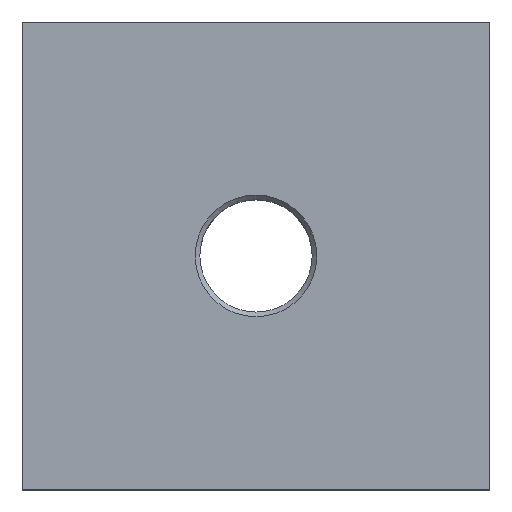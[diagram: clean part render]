
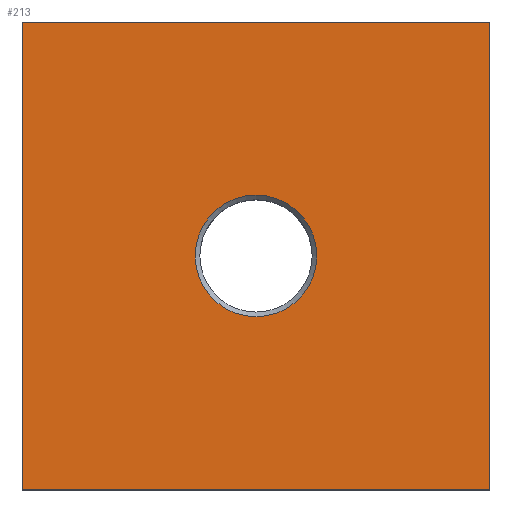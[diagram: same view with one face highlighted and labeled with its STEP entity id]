
A CAD part, top view. The second image highlights one B-rep face of the part: STEP entity #213.
In plain terms, the highlighted planar face has unit normal (0, 0, 1).
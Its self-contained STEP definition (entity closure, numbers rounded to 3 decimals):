
#24 = VERTEX_POINT('',#25);
#25 = CARTESIAN_POINT('',(-50.,-50.,30.));
#32 = PLANE('',#33);
#33 = AXIS2_PLACEMENT_3D('',#34,#35,#36);
#34 = CARTESIAN_POINT('',(-50.,-50.,0.));
#35 = DIRECTION('',(1.,0.,0.));
#36 = DIRECTION('',(0.,0.,1.));
#44 = PLANE('',#45);
#45 = AXIS2_PLACEMENT_3D('',#46,#47,#48);
#46 = CARTESIAN_POINT('',(-50.,-50.,0.));
#47 = DIRECTION('',(0.,1.,0.));
#48 = DIRECTION('',(0.,0.,1.));
#85 = VERTEX_POINT('',#86);
#86 = CARTESIAN_POINT('',(-50.,50.,30.));
#100 = PLANE('',#101);
#101 = AXIS2_PLACEMENT_3D('',#102,#103,#104);
#102 = CARTESIAN_POINT('',(-50.,50.,0.));
#103 = DIRECTION('',(0.,1.,0.));
#104 = DIRECTION('',(0.,0.,1.));
#112 = EDGE_CURVE('',#24,#85,#113,.T.);
#113 = SURFACE_CURVE('',#114,(#118,#125),.PCURVE_S1.);
#114 = LINE('',#115,#116);
#115 = CARTESIAN_POINT('',(-50.,-50.,30.));
#116 = VECTOR('',#117,1.);
#117 = DIRECTION('',(0.,1.,0.));
#118 = PCURVE('',#32,#119);
#119 = DEFINITIONAL_REPRESENTATION('',(#120),#124);
#120 = LINE('',#121,#122);
#121 = CARTESIAN_POINT('',(30.,0.));
#122 = VECTOR('',#123,1.);
#123 = DIRECTION('',(0.,-1.));
#124 = ( GEOMETRIC_REPRESENTATION_CONTEXT(2) 
PARAMETRIC_REPRESENTATION_CONTEXT() REPRESENTATION_CONTEXT('2D SPACE',''
  ) );
#125 = PCURVE('',#126,#131);
#126 = PLANE('',#127);
#127 = AXIS2_PLACEMENT_3D('',#128,#129,#130);
#128 = CARTESIAN_POINT('',(-50.,-50.,30.));
#129 = DIRECTION('',(0.,0.,1.));
#130 = DIRECTION('',(1.,0.,0.));
#131 = DEFINITIONAL_REPRESENTATION('',(#132),#136);
#132 = LINE('',#133,#134);
#133 = CARTESIAN_POINT('',(0.,0.));
#134 = VECTOR('',#135,1.);
#135 = DIRECTION('',(0.,1.));
#136 = ( GEOMETRIC_REPRESENTATION_CONTEXT(2) 
PARAMETRIC_REPRESENTATION_CONTEXT() REPRESENTATION_CONTEXT('2D SPACE',''
  ) );
#165 = EDGE_CURVE('',#24,#166,#168,.T.);
#166 = VERTEX_POINT('',#167);
#167 = CARTESIAN_POINT('',(50.,-50.,30.));
#168 = SURFACE_CURVE('',#169,(#173,#180),.PCURVE_S1.);
#169 = LINE('',#170,#171);
#170 = CARTESIAN_POINT('',(-50.,-50.,30.));
#171 = VECTOR('',#172,1.);
#172 = DIRECTION('',(1.,0.,0.));
#173 = PCURVE('',#44,#174);
#174 = DEFINITIONAL_REPRESENTATION('',(#175),#179);
#175 = LINE('',#176,#177);
#176 = CARTESIAN_POINT('',(30.,0.));
#177 = VECTOR('',#178,1.);
#178 = DIRECTION('',(0.,1.));
#179 = ( GEOMETRIC_REPRESENTATION_CONTEXT(2) 
PARAMETRIC_REPRESENTATION_CONTEXT() REPRESENTATION_CONTEXT('2D SPACE',''
  ) );
#180 = PCURVE('',#126,#181);
#181 = DEFINITIONAL_REPRESENTATION('',(#182),#186);
#182 = LINE('',#183,#184);
#183 = CARTESIAN_POINT('',(0.,0.));
#184 = VECTOR('',#185,1.);
#185 = DIRECTION('',(1.,0.));
#186 = ( GEOMETRIC_REPRESENTATION_CONTEXT(2) 
PARAMETRIC_REPRESENTATION_CONTEXT() REPRESENTATION_CONTEXT('2D SPACE',''
  ) );
#202 = PLANE('',#203);
#203 = AXIS2_PLACEMENT_3D('',#204,#205,#206);
#204 = CARTESIAN_POINT('',(50.,-50.,0.));
#205 = DIRECTION('',(1.,0.,0.));
#206 = DIRECTION('',(0.,0.,1.));
#213 = ADVANCED_FACE('',(#214,#262),#126,.T.);
#214 = FACE_BOUND('',#215,.T.);
#215 = EDGE_LOOP('',(#216,#217,#218,#241));
#216 = ORIENTED_EDGE('',*,*,#112,.F.);
#217 = ORIENTED_EDGE('',*,*,#165,.T.);
#218 = ORIENTED_EDGE('',*,*,#219,.T.);
#219 = EDGE_CURVE('',#166,#220,#222,.T.);
#220 = VERTEX_POINT('',#221);
#221 = CARTESIAN_POINT('',(50.,50.,30.));
#222 = SURFACE_CURVE('',#223,(#227,#234),.PCURVE_S1.);
#223 = LINE('',#224,#225);
#224 = CARTESIAN_POINT('',(50.,-50.,30.));
#225 = VECTOR('',#226,1.);
#226 = DIRECTION('',(0.,1.,0.));
#227 = PCURVE('',#126,#228);
#228 = DEFINITIONAL_REPRESENTATION('',(#229),#233);
#229 = LINE('',#230,#231);
#230 = CARTESIAN_POINT('',(100.,0.));
#231 = VECTOR('',#232,1.);
#232 = DIRECTION('',(0.,1.));
#233 = ( GEOMETRIC_REPRESENTATION_CONTEXT(2) 
PARAMETRIC_REPRESENTATION_CONTEXT() REPRESENTATION_CONTEXT('2D SPACE',''
  ) );
#234 = PCURVE('',#202,#235);
#235 = DEFINITIONAL_REPRESENTATION('',(#236),#240);
#236 = LINE('',#237,#238);
#237 = CARTESIAN_POINT('',(30.,0.));
#238 = VECTOR('',#239,1.);
#239 = DIRECTION('',(0.,-1.));
#240 = ( GEOMETRIC_REPRESENTATION_CONTEXT(2) 
PARAMETRIC_REPRESENTATION_CONTEXT() REPRESENTATION_CONTEXT('2D SPACE',''
  ) );
#241 = ORIENTED_EDGE('',*,*,#242,.F.);
#242 = EDGE_CURVE('',#85,#220,#243,.T.);
#243 = SURFACE_CURVE('',#244,(#248,#255),.PCURVE_S1.);
#244 = LINE('',#245,#246);
#245 = CARTESIAN_POINT('',(-50.,50.,30.));
#246 = VECTOR('',#247,1.);
#247 = DIRECTION('',(1.,0.,0.));
#248 = PCURVE('',#126,#249);
#249 = DEFINITIONAL_REPRESENTATION('',(#250),#254);
#250 = LINE('',#251,#252);
#251 = CARTESIAN_POINT('',(0.,100.));
#252 = VECTOR('',#253,1.);
#253 = DIRECTION('',(1.,0.));
#254 = ( GEOMETRIC_REPRESENTATION_CONTEXT(2) 
PARAMETRIC_REPRESENTATION_CONTEXT() REPRESENTATION_CONTEXT('2D SPACE',''
  ) );
#255 = PCURVE('',#100,#256);
#256 = DEFINITIONAL_REPRESENTATION('',(#257),#261);
#257 = LINE('',#258,#259);
#258 = CARTESIAN_POINT('',(30.,0.));
#259 = VECTOR('',#260,1.);
#260 = DIRECTION('',(0.,1.));
#261 = ( GEOMETRIC_REPRESENTATION_CONTEXT(2) 
PARAMETRIC_REPRESENTATION_CONTEXT() REPRESENTATION_CONTEXT('2D SPACE',''
  ) );
#262 = FACE_BOUND('',#263,.T.);
#263 = EDGE_LOOP('',(#264));
#264 = ORIENTED_EDGE('',*,*,#265,.F.);
#265 = EDGE_CURVE('',#266,#266,#268,.T.);
#266 = VERTEX_POINT('',#267);
#267 = CARTESIAN_POINT('',(13.,0.,30.));
#268 = SURFACE_CURVE('',#269,(#274,#281),.PCURVE_S1.);
#269 = CIRCLE('',#270,13.);
#270 = AXIS2_PLACEMENT_3D('',#271,#272,#273);
#271 = CARTESIAN_POINT('',(0.,0.,30.));
#272 = DIRECTION('',(0.,0.,1.));
#273 = DIRECTION('',(1.,0.,-0.));
#274 = PCURVE('',#126,#275);
#275 = DEFINITIONAL_REPRESENTATION('',(#276),#280);
#276 = CIRCLE('',#277,13.);
#277 = AXIS2_PLACEMENT_2D('',#278,#279);
#278 = CARTESIAN_POINT('',(50.,50.));
#279 = DIRECTION('',(1.,0.));
#280 = ( GEOMETRIC_REPRESENTATION_CONTEXT(2) 
PARAMETRIC_REPRESENTATION_CONTEXT() REPRESENTATION_CONTEXT('2D SPACE',''
  ) );
#281 = PCURVE('',#282,#287);
#282 = CONICAL_SURFACE('',#283,12.,0.785);
#283 = AXIS2_PLACEMENT_3D('',#284,#285,#286);
#284 = CARTESIAN_POINT('',(0.,0.,29.));
#285 = DIRECTION('',(0.,0.,1.));
#286 = DIRECTION('',(1.,0.,-0.));
#287 = DEFINITIONAL_REPRESENTATION('',(#288),#292);
#288 = LINE('',#289,#290);
#289 = CARTESIAN_POINT('',(0.,1.));
#290 = VECTOR('',#291,1.);
#291 = DIRECTION('',(1.,0.));
#292 = ( GEOMETRIC_REPRESENTATION_CONTEXT(2) 
PARAMETRIC_REPRESENTATION_CONTEXT() REPRESENTATION_CONTEXT('2D SPACE',''
  ) );
